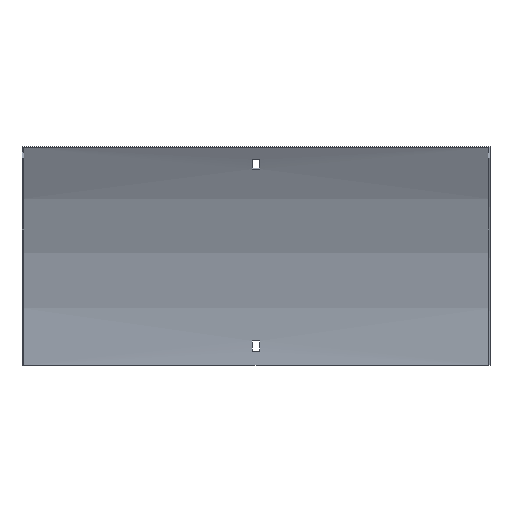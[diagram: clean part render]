
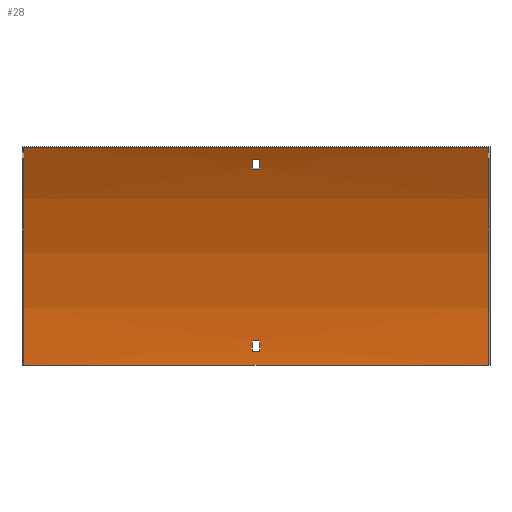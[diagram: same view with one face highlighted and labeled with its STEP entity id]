
A CAD part, front view. The second image highlights one B-rep face of the part: STEP entity #28.
In plain terms, the highlighted cylindrical face has radius 375 mm (diameter 750 mm), a partial arc.
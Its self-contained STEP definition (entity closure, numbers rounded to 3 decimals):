
#3 = AXIS2_PLACEMENT_3D ( 'NONE', #566, #554, #56 ) ;
#6 = VERTEX_POINT ( 'NONE', #24 ) ;
#8 = EDGE_CURVE ( 'NONE', #6, #60, #117, .T. ) ;
#16 = CARTESIAN_POINT ( 'NONE',  ( 200., -376.5, 0. ) ) ;
#17 = LINE ( 'NONE', #152, #357 ) ;
#18 = ORIENTED_EDGE ( 'NONE', *, *, #197, .F. ) ;
#21 = DIRECTION ( 'NONE',  ( 0., 0., -1. ) ) ;
#22 = DIRECTION ( 'NONE',  ( 1., 0., 0. ) ) ;
#23 = AXIS2_PLACEMENT_3D ( 'NONE', #539, #271, #216 ) ;
#24 = CARTESIAN_POINT ( 'NONE',  ( 3.25, -2.088, 21. ) ) ;
#28 = ADVANCED_FACE ( 'NONE', ( #311, #445, #546 ), #77, .F. ) ;
#29 = DIRECTION ( 'NONE',  ( 1., 0., 0. ) ) ;
#30 = EDGE_LOOP ( 'NONE', ( #369, #507, #113, #18 ) ) ;
#36 = CIRCLE ( 'NONE', #563, 375. ) ;
#44 = AXIS2_PLACEMENT_3D ( 'NONE', #502, #45, #84 ) ;
#45 = DIRECTION ( 'NONE',  ( 1., 0., 0. ) ) ;
#56 = DIRECTION ( 'NONE',  ( 0., 0., -1. ) ) ;
#60 = VERTEX_POINT ( 'NONE', #178 ) ;
#65 = DIRECTION ( 'NONE',  ( 0., 0., -1. ) ) ;
#77 = CYLINDRICAL_SURFACE ( 'NONE', #23, 375. ) ;
#81 = VECTOR ( 'NONE', #291, 1000. ) ;
#84 = DIRECTION ( 'NONE',  ( 0., 0., -1. ) ) ;
#93 = EDGE_CURVE ( 'NONE', #60, #139, #36, .T. ) ;
#97 = EDGE_LOOP ( 'NONE', ( #108, #418, #399, #102 ) ) ;
#99 = AXIS2_PLACEMENT_3D ( 'NONE', #293, #201, #65 ) ;
#101 = CIRCLE ( 'NONE', #44, 375. ) ;
#102 = ORIENTED_EDGE ( 'NONE', *, *, #603, .T. ) ;
#107 = VECTOR ( 'NONE', #22, 1000. ) ;
#108 = ORIENTED_EDGE ( 'NONE', *, *, #137, .F. ) ;
#113 = ORIENTED_EDGE ( 'NONE', *, *, #285, .F. ) ;
#117 = LINE ( 'NONE', #295, #459 ) ;
#133 = VERTEX_POINT ( 'NONE', #557 ) ;
#137 = EDGE_CURVE ( 'NONE', #133, #371, #534, .T. ) ;
#139 = VERTEX_POINT ( 'NONE', #185 ) ;
#152 = CARTESIAN_POINT ( 'NONE',  ( 200., -51.74, 187.5 ) ) ;
#161 = DIRECTION ( 'NONE',  ( -1., 0., 0. ) ) ;
#164 = CARTESIAN_POINT ( 'NONE',  ( 200., -51.74, 187.5 ) ) ;
#166 = LINE ( 'NONE', #443, #522 ) ;
#167 = LINE ( 'NONE', #537, #535 ) ;
#178 = CARTESIAN_POINT ( 'NONE',  ( -3.25, -2.088, 21. ) ) ;
#185 = CARTESIAN_POINT ( 'NONE',  ( -3.25, -1.692, 12. ) ) ;
#186 = EDGE_LOOP ( 'NONE', ( #335, #200, #516, #191 ) ) ;
#191 = ORIENTED_EDGE ( 'NONE', *, *, #585, .T. ) ;
#197 = EDGE_CURVE ( 'NONE', #139, #237, #166, .T. ) ;
#200 = ORIENTED_EDGE ( 'NONE', *, *, #470, .T. ) ;
#201 = DIRECTION ( 'NONE',  ( 1., 0., 0. ) ) ;
#208 = CARTESIAN_POINT ( 'NONE',  ( 3.25, -41.75, 169.019 ) ) ;
#212 = CARTESIAN_POINT ( 'NONE',  ( 3.25, -376.5, 0. ) ) ;
#215 = LINE ( 'NONE', #397, #81 ) ;
#216 = DIRECTION ( 'NONE',  ( 0., 0., 1. ) ) ;
#237 = VERTEX_POINT ( 'NONE', #583 ) ;
#265 = CIRCLE ( 'NONE', #299, 375. ) ;
#271 = DIRECTION ( 'NONE',  ( -1., 0., 0. ) ) ;
#276 = VERTEX_POINT ( 'NONE', #391 ) ;
#281 = CIRCLE ( 'NONE', #494, 375. ) ;
#285 = EDGE_CURVE ( 'NONE', #237, #6, #355, .T. ) ;
#291 = DIRECTION ( 'NONE',  ( -1., 0., 0. ) ) ;
#293 = CARTESIAN_POINT ( 'NONE',  ( 3.25, -376.5, 0. ) ) ;
#295 = CARTESIAN_POINT ( 'NONE',  ( 201.5, -2.088, 21. ) ) ;
#299 = AXIS2_PLACEMENT_3D ( 'NONE', #16, #29, #21 ) ;
#304 = DIRECTION ( 'NONE',  ( -1., 0., 0. ) ) ;
#311 = FACE_BOUND ( 'NONE', #30, .T. ) ;
#312 = EDGE_CURVE ( 'NONE', #324, #319, #265, .T. ) ;
#314 = CARTESIAN_POINT ( 'NONE',  ( -3.25, -376.5, 0. ) ) ;
#319 = VERTEX_POINT ( 'NONE', #164 ) ;
#324 = VERTEX_POINT ( 'NONE', #533 ) ;
#335 = ORIENTED_EDGE ( 'NONE', *, *, #413, .T. ) ;
#352 = EDGE_CURVE ( 'NONE', #324, #133, #215, .T. ) ;
#355 = CIRCLE ( 'NONE', #99, 375. ) ;
#357 = VECTOR ( 'NONE', #161, 1000. ) ;
#358 = CARTESIAN_POINT ( 'NONE',  ( -3.25, -45.907, 177.012 ) ) ;
#359 = DIRECTION ( 'NONE',  ( 0., 0., 1. ) ) ;
#369 = ORIENTED_EDGE ( 'NONE', *, *, #93, .F. ) ;
#371 = VERTEX_POINT ( 'NONE', #385 ) ;
#378 = LINE ( 'NONE', #570, #107 ) ;
#385 = CARTESIAN_POINT ( 'NONE',  ( -200., -51.74, 187.5 ) ) ;
#391 = CARTESIAN_POINT ( 'NONE',  ( -3.25, -41.75, 169.019 ) ) ;
#393 = DIRECTION ( 'NONE',  ( -1., 0., 0. ) ) ;
#394 = VERTEX_POINT ( 'NONE', #208 ) ;
#397 = CARTESIAN_POINT ( 'NONE',  ( 200., -1.5, 0. ) ) ;
#399 = ORIENTED_EDGE ( 'NONE', *, *, #312, .T. ) ;
#408 = DIRECTION ( 'NONE',  ( -1., 0., 0. ) ) ;
#413 = EDGE_CURVE ( 'NONE', #394, #276, #167, .T. ) ;
#418 = ORIENTED_EDGE ( 'NONE', *, *, #352, .F. ) ;
#421 = VERTEX_POINT ( 'NONE', #497 ) ;
#435 = VERTEX_POINT ( 'NONE', #358 ) ;
#443 = CARTESIAN_POINT ( 'NONE',  ( 201.5, -1.692, 12. ) ) ;
#445 = FACE_OUTER_BOUND ( 'NONE', #97, .T. ) ;
#459 = VECTOR ( 'NONE', #600, 1000. ) ;
#470 = EDGE_CURVE ( 'NONE', #276, #435, #101, .T. ) ;
#480 = DIRECTION ( 'NONE',  ( 1., 0., 0. ) ) ;
#494 = AXIS2_PLACEMENT_3D ( 'NONE', #212, #393, #521 ) ;
#497 = CARTESIAN_POINT ( 'NONE',  ( 3.25, -45.907, 177.012 ) ) ;
#502 = CARTESIAN_POINT ( 'NONE',  ( -3.25, -376.5, 0. ) ) ;
#507 = ORIENTED_EDGE ( 'NONE', *, *, #8, .F. ) ;
#516 = ORIENTED_EDGE ( 'NONE', *, *, #596, .T. ) ;
#521 = DIRECTION ( 'NONE',  ( 0., 0., 1. ) ) ;
#522 = VECTOR ( 'NONE', #480, 1000. ) ;
#533 = CARTESIAN_POINT ( 'NONE',  ( 200., -1.5, 0. ) ) ;
#534 = CIRCLE ( 'NONE', #3, 375. ) ;
#535 = VECTOR ( 'NONE', #304, 1000. ) ;
#537 = CARTESIAN_POINT ( 'NONE',  ( 201.5, -41.75, 169.019 ) ) ;
#539 = CARTESIAN_POINT ( 'NONE',  ( 201.5, -376.5, 0. ) ) ;
#546 = FACE_BOUND ( 'NONE', #186, .T. ) ;
#554 = DIRECTION ( 'NONE',  ( 1., 0., 0. ) ) ;
#557 = CARTESIAN_POINT ( 'NONE',  ( -200., -1.5, 0. ) ) ;
#563 = AXIS2_PLACEMENT_3D ( 'NONE', #314, #408, #359 ) ;
#566 = CARTESIAN_POINT ( 'NONE',  ( -200., -376.5, 0. ) ) ;
#570 = CARTESIAN_POINT ( 'NONE',  ( 201.5, -45.907, 177.012 ) ) ;
#583 = CARTESIAN_POINT ( 'NONE',  ( 3.25, -1.692, 12. ) ) ;
#585 = EDGE_CURVE ( 'NONE', #421, #394, #281, .T. ) ;
#596 = EDGE_CURVE ( 'NONE', #435, #421, #378, .T. ) ;
#600 = DIRECTION ( 'NONE',  ( -1., 0., 0. ) ) ;
#603 = EDGE_CURVE ( 'NONE', #319, #371, #17, .T. ) ;
